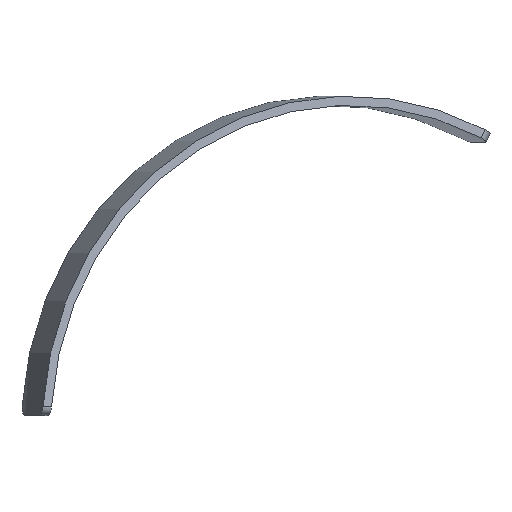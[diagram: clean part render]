
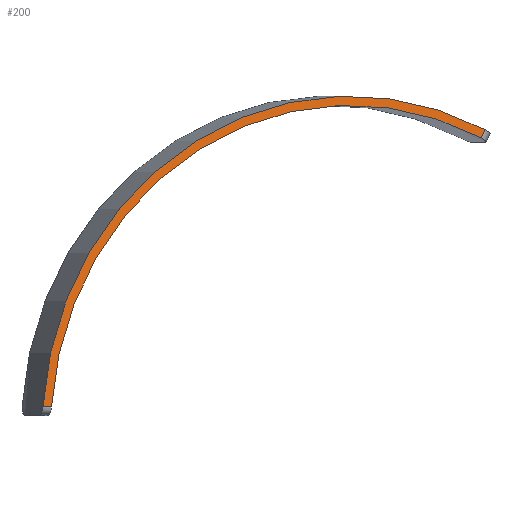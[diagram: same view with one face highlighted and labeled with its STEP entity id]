
A CAD part, left-side view. The second image highlights one B-rep face of the part: STEP entity #200.
In plain terms, the highlighted planar face has unit normal (-0.924, -0.383, 0).
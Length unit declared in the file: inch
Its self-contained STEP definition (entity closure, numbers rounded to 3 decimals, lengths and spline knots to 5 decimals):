
#7 = EDGE_CURVE ( 'NONE', #184, #21, #263, .T. ) ;
#11 = CARTESIAN_POINT ( 'NONE',  ( 49.12238, -126.43129, 32.75143 ) ) ;
#12 = CIRCLE ( 'NONE', #431, 36.44 ) ;
#18 = EDGE_LOOP ( 'NONE', ( #253, #230, #274, #418 ) ) ;
#21 = VERTEX_POINT ( 'NONE', #109 ) ;
#39 = CARTESIAN_POINT ( 'NONE',  ( 42.6696, -110.8529, 0.46291 ) ) ;
#57 = DIRECTION ( 'NONE',  ( 0.382, -0.923, -0.042 ) ) ;
#109 = CARTESIAN_POINT ( 'NONE',  ( 29.48026, -79.01101, 2.49851 ) ) ;
#129 = DIRECTION ( 'NONE',  ( 0.924, 0.383, 0. ) ) ;
#136 = CARTESIAN_POINT ( 'NONE',  ( 43.00881, -111.67183, 0. ) ) ;
#138 = VECTOR ( 'NONE', #57, 39.37008 ) ;
#140 = LINE ( 'NONE', #389, #138 ) ;
#152 = DIRECTION ( 'NONE',  ( 0.383, -0.924, 0. ) ) ;
#173 = DIRECTION ( 'NONE',  ( -0.383, 0.924, 0. ) ) ;
#184 = VERTEX_POINT ( 'NONE', #508 ) ;
#200 = ADVANCED_FACE ( 'NONE', ( #297 ), #214, .F. ) ;
#214 = PLANE ( 'NONE',  #328 ) ;
#216 = EDGE_CURVE ( 'NONE', #184, #465, #298, .T. ) ;
#230 = ORIENTED_EDGE ( 'NONE', *, *, #448, .T. ) ;
#253 = ORIENTED_EDGE ( 'NONE', *, *, #521, .T. ) ;
#263 = CIRCLE ( 'NONE', #419, 35.44 ) ;
#274 = ORIENTED_EDGE ( 'NONE', *, *, #7, .F. ) ;
#297 = FACE_OUTER_BOUND ( 'NONE', #18, .T. ) ;
#298 = LINE ( 'NONE', #39, #346 ) ;
#300 = DIRECTION ( 'NONE',  ( 0.177, -0.428, 0.886 ) ) ;
#306 = DIRECTION ( 'NONE',  ( -0.924, -0.383, 0. ) ) ;
#328 = AXIS2_PLACEMENT_3D ( 'NONE', #383, #129, #173 ) ;
#346 = VECTOR ( 'NONE', #300, 39.37008 ) ;
#356 = DIRECTION ( 'NONE',  ( 0.383, -0.924, 0. ) ) ;
#358 = CARTESIAN_POINT ( 'NONE',  ( 29.09777, -78.0876, 2.54085 ) ) ;
#383 = CARTESIAN_POINT ( 'NONE',  ( 43.00881, -111.67183, 0. ) ) ;
#389 = CARTESIAN_POINT ( 'NONE',  ( 43.02501, -111.71094, 0.9991 ) ) ;
#411 = DIRECTION ( 'NONE',  ( -0.924, -0.383, 0. ) ) ;
#418 = ORIENTED_EDGE ( 'NONE', *, *, #216, .T. ) ;
#419 = AXIS2_PLACEMENT_3D ( 'NONE', #136, #306, #356 ) ;
#431 = AXIS2_PLACEMENT_3D ( 'NONE', #450, #411, #152 ) ;
#448 = EDGE_CURVE ( 'NONE', #486, #21, #140, .T. ) ;
#450 = CARTESIAN_POINT ( 'NONE',  ( 43.00881, -111.67183, 0. ) ) ;
#465 = VERTEX_POINT ( 'NONE', #11 ) ;
#486 = VERTEX_POINT ( 'NONE', #358 ) ;
#508 = CARTESIAN_POINT ( 'NONE',  ( 48.94517, -126.00346, 31.86468 ) ) ;
#521 = EDGE_CURVE ( 'NONE', #465, #486, #12, .T. ) ;
